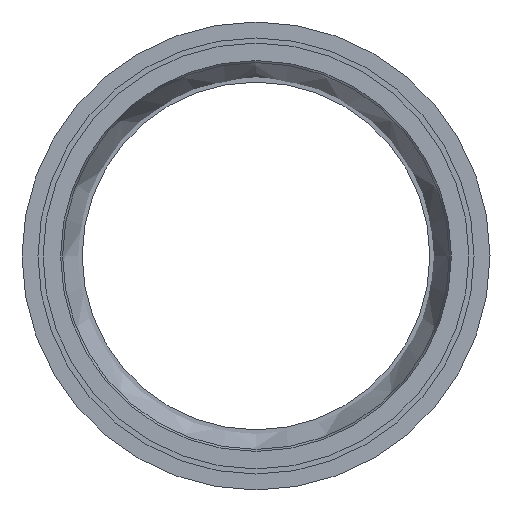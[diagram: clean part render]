
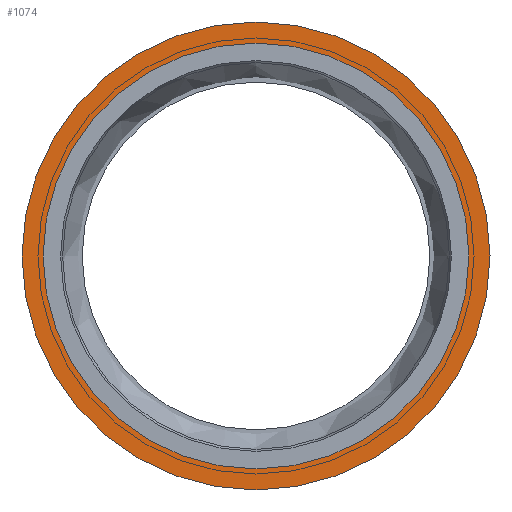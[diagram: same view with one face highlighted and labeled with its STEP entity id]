
A CAD part, left-side view. The second image highlights one B-rep face of the part: STEP entity #1074.
In plain terms, the highlighted planar face has unit normal (-1, 0, 0).
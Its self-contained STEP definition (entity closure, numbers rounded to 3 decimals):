
#135=PLANE('',#1196);
#195=FACE_BOUND('',#377,.T.);
#196=FACE_BOUND('',#378,.T.);
#377=EDGE_LOOP('',(#909));
#378=EDGE_LOOP('',(#910));
#433=CIRCLE('',#1195,45.5);
#434=CIRCLE('',#1197,41.4);
#541=VERTEX_POINT('',#4128);
#542=VERTEX_POINT('',#4131);
#665=EDGE_CURVE('',#541,#541,#433,.T.);
#666=EDGE_CURVE('',#542,#542,#434,.T.);
#909=ORIENTED_EDGE('',*,*,#666,.F.);
#910=ORIENTED_EDGE('',*,*,#665,.T.);
#1074=ADVANCED_FACE('',(#195,#196),#135,.T.);
#1195=AXIS2_PLACEMENT_3D('',#4129,#1425,#1426);
#1196=AXIS2_PLACEMENT_3D('',#4130,#1427,#1428);
#1197=AXIS2_PLACEMENT_3D('',#4132,#1429,#1430);
#1425=DIRECTION('center_axis',(-1.,0.,0.));
#1426=DIRECTION('ref_axis',(0.,0.,
-1.));
#1427=DIRECTION('center_axis',(-1.,0.,0.));
#1428=DIRECTION('ref_axis',(0.,0.,-1.));
#1429=DIRECTION('center_axis',(-1.,0.,0.));
#1430=DIRECTION('ref_axis',(0.,0.,
-1.));
#4128=CARTESIAN_POINT('',(-1550.39,-45.5,0.));
#4129=CARTESIAN_POINT('Origin',(-1550.39,0.,0.));
#4130=CARTESIAN_POINT('Origin',(-1550.39,-41.4,0.));
#4131=CARTESIAN_POINT('',(-1550.39,-41.4,0.));
#4132=CARTESIAN_POINT('Origin',(-1550.39,0.,0.));
